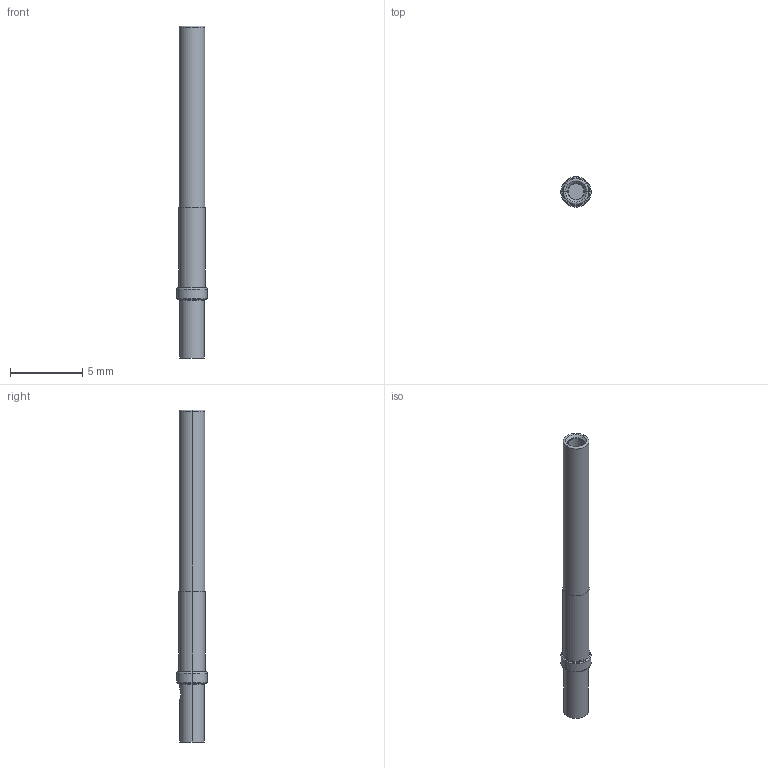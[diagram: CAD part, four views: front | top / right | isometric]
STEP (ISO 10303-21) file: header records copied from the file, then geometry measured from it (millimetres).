
FILE_DESCRIPTION((''),'2;1');
FILE_NAME('C-208267-2','2008-05-05T',('workeradm'),('Tyco Electronics Corporation'),'PRO/ENGINEER BY PARAMETRIC TECHNOLOGY CORPORATION, 2005450','PRO/ENGINEER BY PARAMETRIC TECHNOLOGY CORPORATION, 2005450','');
FILE_SCHEMA(('CONFIG_CONTROL_DESIGN', 'GEOMETRIC_VALIDATION_PROPERTIES_MIM'));
Length unit declared in the file: millimetre
Products named in the file (1): C-208267-2
Bounding box: 2.11 x 2.11 x 23.05 mm (x, y, z)
Volume: 52.9 mm3; surface area: 155.1 mm2
Topology: 1 solids, 1 shells, 52 faces, 111 edges, 68 vertices
Faces by surface type: plane 19, cylinder 17, torus 12, cone 4
Entity records: 1596 total; most frequent: CARTESIAN_POINT 305, DIRECTION 264, ORIENTED_EDGE 222, AXIS2_PLACEMENT_3D 111, EDGE_CURVE 111, VERTEX_POINT 68, COLOUR_RGB 64, EDGE_LOOP 61
